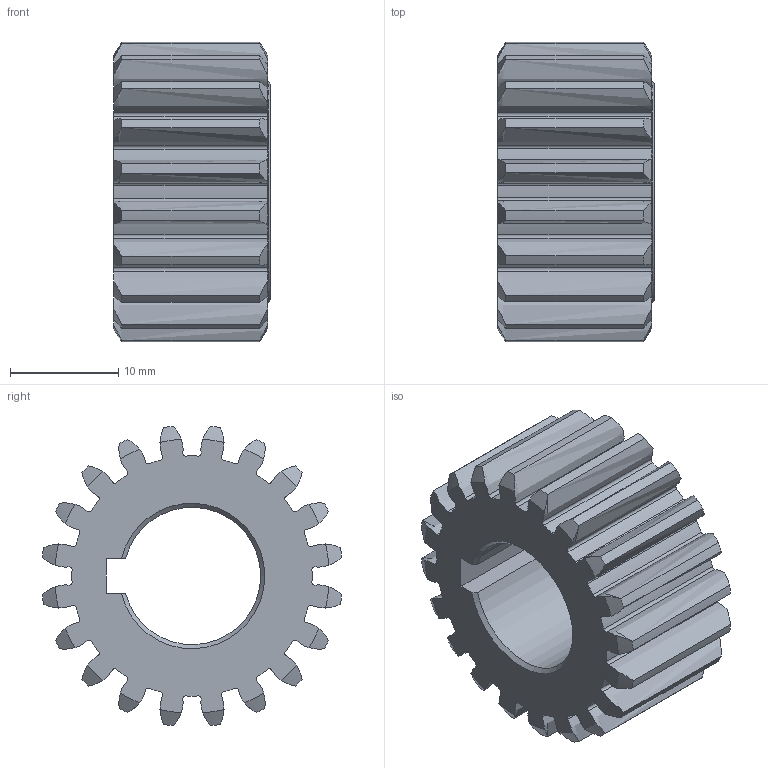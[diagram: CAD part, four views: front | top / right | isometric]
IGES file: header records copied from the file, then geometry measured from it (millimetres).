
Global section: file name: No Iges File Name specified; native system: AutoDesk Inventor R6.0; preprocessor: AutoDesk Inventor Iges Exporter R6.0; author: No Author specified; organization: No Organization specified; date: 20080103.182316; units: inch
Bounding box: 14.48 x 27.72 x 27.72 mm (x, y, z)
Surface area: 3660.2 mm2 (no closed solid volume)
Topology: 0 solids, 0 shells, 171 faces, 1004 edges, 1002 vertices
Faces by surface type: revolution 164, plane 6, bspline 1
